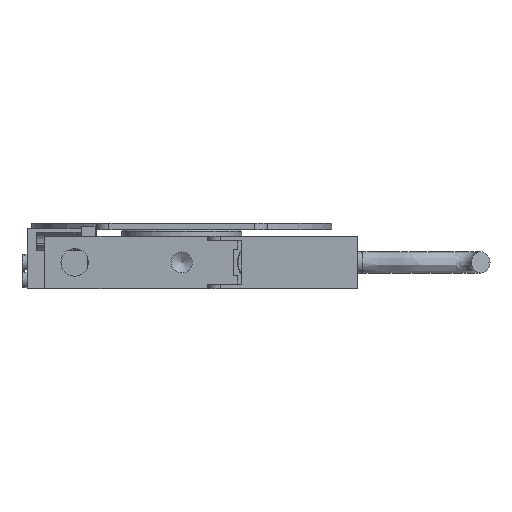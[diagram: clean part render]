
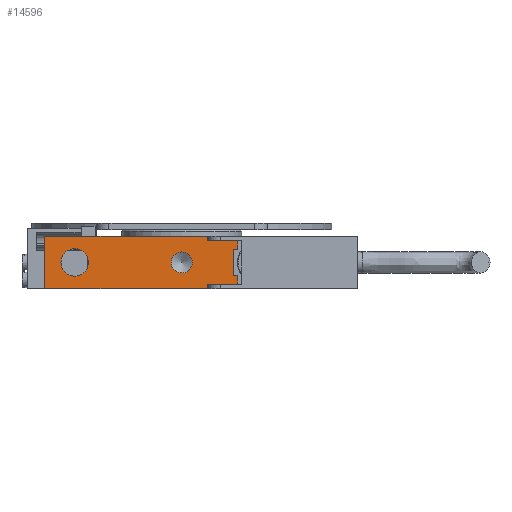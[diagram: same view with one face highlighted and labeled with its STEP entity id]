
A CAD part, front view. The second image highlights one B-rep face of the part: STEP entity #14596.
In plain terms, the highlighted planar face has unit normal (0, -1, 0) by its records, which use the part's own axes.
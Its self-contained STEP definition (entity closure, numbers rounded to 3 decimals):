
#760=LINE($,#22938,#1939);
#763=LINE($,#22944,#1942);
#766=LINE($,#22949,#1945);
#769=LINE($,#22956,#1948);
#784=LINE($,#23000,#1963);
#799=LINE($,#23033,#1978);
#801=LINE($,#23041,#1980);
#867=LINE($,#23371,#2046);
#871=LINE($,#23377,#2050);
#872=LINE($,#23379,#2051);
#873=LINE($,#23381,#2052);
#884=LINE($,#23406,#2063);
#1939=VECTOR($,#18427,7.);
#1942=VECTOR($,#18432,1.);
#1945=VECTOR($,#18437,7.);
#1948=VECTOR($,#18442,38.);
#1963=VECTOR($,#18475,1.);
#1978=VECTOR($,#18496,38.);
#1980=VECTOR($,#18504,2.1);
#2046=VECTOR($,#18752,6.);
#2050=VECTOR($,#18758,2.1);
#2051=VECTOR($,#18761,1.);
#2052=VECTOR($,#18764,1.);
#2063=VECTOR($,#18799,12.2);
#3144=FACE_BOUND($,#5014,.T.);
#3145=FACE_BOUND($,#5015,.T.);
#3886=FACE_OUTER_BOUND($,#5013,.T.);
#5013=EDGE_LOOP($,(#11434,#11435,#11436,#11437,#11438,#11439,#11440,#11441,
#11442,#11443,#11444,#11445));
#5014=EDGE_LOOP($,(#11446));
#5015=EDGE_LOOP($,(#11447));
#5883=CIRCLE($,#15849,3.2);
#5885=CIRCLE($,#15853,2.459);
#6743=VERTEX_POINT($,#22935);
#6744=VERTEX_POINT($,#22937);
#6745=VERTEX_POINT($,#22941);
#6746=VERTEX_POINT($,#22943);
#6747=VERTEX_POINT($,#22947);
#6750=VERTEX_POINT($,#22955);
#6770=VERTEX_POINT($,#22998);
#6785=VERTEX_POINT($,#23031);
#6788=VERTEX_POINT($,#23040);
#6791=VERTEX_POINT($,#23048);
#6793=VERTEX_POINT($,#23054);
#6870=VERTEX_POINT($,#23368);
#6871=VERTEX_POINT($,#23370);
#6872=VERTEX_POINT($,#23375);
#8346=EDGE_CURVE($,#6744,#6743,#760,.T.);
#8349=EDGE_CURVE($,#6746,#6745,#763,.T.);
#8352=EDGE_CURVE($,#6745,#6747,#766,.T.);
#8355=EDGE_CURVE($,#6750,#6746,#769,.T.);
#8378=EDGE_CURVE($,#6743,#6770,#784,.T.);
#8395=EDGE_CURVE($,#6770,#6785,#799,.T.);
#8399=EDGE_CURVE($,#6788,#6744,#801,.T.);
#8403=EDGE_CURVE($,#6791,#6791,#5883,.T.);
#8405=EDGE_CURVE($,#6793,#6793,#5885,.T.);
#8519=EDGE_CURVE($,#6871,#6870,#867,.T.);
#8523=EDGE_CURVE($,#6747,#6872,#871,.T.);
#8524=EDGE_CURVE($,#6870,#6788,#872,.T.);
#8525=EDGE_CURVE($,#6872,#6871,#873,.T.);
#8537=EDGE_CURVE($,#6750,#6785,#884,.T.);
#11434=ORIENTED_EDGE($,*,*,#8352,.T.);
#11435=ORIENTED_EDGE($,*,*,#8523,.T.);
#11436=ORIENTED_EDGE($,*,*,#8525,.T.);
#11437=ORIENTED_EDGE($,*,*,#8519,.T.);
#11438=ORIENTED_EDGE($,*,*,#8524,.T.);
#11439=ORIENTED_EDGE($,*,*,#8399,.T.);
#11440=ORIENTED_EDGE($,*,*,#8346,.T.);
#11441=ORIENTED_EDGE($,*,*,#8378,.T.);
#11442=ORIENTED_EDGE($,*,*,#8395,.T.);
#11443=ORIENTED_EDGE($,*,*,#8537,.F.);
#11444=ORIENTED_EDGE($,*,*,#8355,.T.);
#11445=ORIENTED_EDGE($,*,*,#8349,.T.);
#11446=ORIENTED_EDGE($,*,*,#8403,.T.);
#11447=ORIENTED_EDGE($,*,*,#8405,.T.);
#13860=PLANE($,#15951);
#14596=ADVANCED_FACE($,(#3886,#3144,#3145),#13860,.T.);
#15849=AXIS2_PLACEMENT_3D($,#23049,#18512,#18513);
#15853=AXIS2_PLACEMENT_3D($,#23055,#18520,#18521);
#15951=AXIS2_PLACEMENT_3D($,#23405,#18797,#18798);
#18427=DIRECTION($,(-1.,0.,0.));
#18432=DIRECTION($,(0.,0.,1.));
#18437=DIRECTION($,(1.,0.,0.));
#18442=DIRECTION($,(1.,0.,0.));
#18475=DIRECTION($,(0.,0.,1.));
#18496=DIRECTION($,(-1.,0.,0.));
#18504=DIRECTION($,(0.,0.,1.));
#18512=DIRECTION('center_axis',(0.,1.,0.));
#18513=DIRECTION('ref_axis',(1.,0.,0.));
#18520=DIRECTION('center_axis',(0.,1.,0.));
#18521=DIRECTION('ref_axis',(1.,0.,0.));
#18752=DIRECTION($,(0.,0.,1.));
#18758=DIRECTION($,(0.,0.,1.));
#18761=DIRECTION($,(1.,0.,0.));
#18764=DIRECTION($,(-1.,0.,0.));
#18797=DIRECTION('center_axis',(0.,-1.,0.));
#18798=DIRECTION('ref_axis',(0.,0.,-1.));
#18799=DIRECTION($,(0.,0.,1.));
#22935=CARTESIAN_POINT('',(-15.321,-23.38,11.2));
#22937=CARTESIAN_POINT('',(-8.321,-23.38,11.2));
#22938=CARTESIAN_POINT($,(-10.029,-23.38,11.2));
#22941=CARTESIAN_POINT('',(-15.321,-23.38,1.));
#22943=CARTESIAN_POINT('',(-15.321,-23.38,0.));
#22944=CARTESIAN_POINT($,(-15.321,-23.38,0.));
#22947=CARTESIAN_POINT('',(-8.321,-23.38,1.));
#22949=CARTESIAN_POINT($,(-10.029,-23.38,1.));
#22955=CARTESIAN_POINT('',(-53.321,-23.38,0.));
#22956=CARTESIAN_POINT($,(-53.321,-23.38,0.));
#22998=CARTESIAN_POINT('',(-15.321,-23.38,12.2));
#23000=CARTESIAN_POINT($,(-15.321,-23.38,6.1));
#23031=CARTESIAN_POINT('',(-53.321,-23.38,12.2));
#23033=CARTESIAN_POINT($,(-53.321,-23.38,12.2));
#23040=CARTESIAN_POINT('',(-8.321,-23.38,9.1));
#23041=CARTESIAN_POINT($,(-8.321,-23.38,0.));
#23048=CARTESIAN_POINT('',(-43.121,-23.38,6.1));
#23049=CARTESIAN_POINT('Origin',(-46.321,-23.38,6.1));
#23054=CARTESIAN_POINT('',(-18.863,-23.38,6.1));
#23055=CARTESIAN_POINT('Origin',(-21.321,-23.38,6.1));
#23368=CARTESIAN_POINT('',(-9.321,-23.38,9.1));
#23370=CARTESIAN_POINT('',(-9.321,-23.38,3.1));
#23371=CARTESIAN_POINT($,(-9.321,-23.38,3.05));
#23375=CARTESIAN_POINT('',(-8.321,-23.38,3.1));
#23377=CARTESIAN_POINT($,(-8.321,-23.38,0.));
#23379=CARTESIAN_POINT($,(-8.321,-23.38,9.1));
#23381=CARTESIAN_POINT($,(-8.321,-23.38,3.1));
#23405=CARTESIAN_POINT('Origin',(-8.321,-23.38,0.));
#23406=CARTESIAN_POINT($,(-53.321,-23.38,0.));
